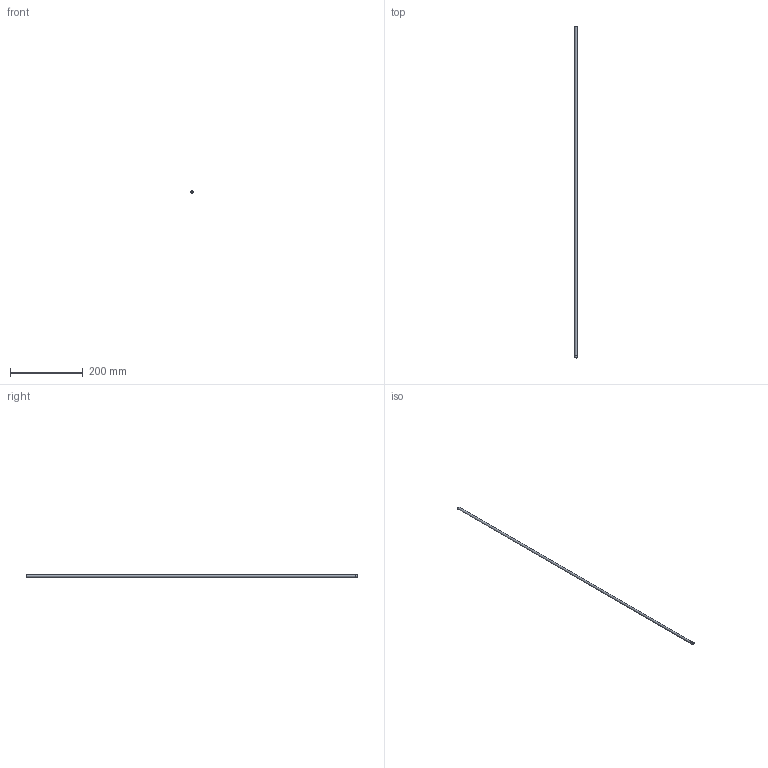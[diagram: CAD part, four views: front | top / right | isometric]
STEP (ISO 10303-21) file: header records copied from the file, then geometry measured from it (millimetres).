
FILE_DESCRIPTION(/* description */ (''),/* implementation_level */ '2;1');
FILE_NAME(/* name */ 'C:/Users/drich/Desktop/HF250T-36 v1.step',/* time_stamp */ '2019-12-30T13:34:15-06:00',/* author */ (''),/* organization */ (''),/* preprocessor_version */ 'ST-DEVELOPER v18',/* originating_system */ 'Autodesk Translation Framework v8.12.0.6',/* authorisation */ '');
FILE_SCHEMA (('AUTOMOTIVE_DESIGN { 1 0 10303 214 3 1 1 }'));
Length unit declared in the file: inch
Products named in the file (1): HF250T-36
Bounding box: 7.98 x 914.4 x 7.98 mm (x, y, z)
Volume: 4569.7 mm3; surface area: 35094.2 mm2
Topology: 1 solids, 1 shells, 12 faces, 30 edges, 22 vertices
Faces by surface type: plane 4, cylinder 4, torus 3, cone 1
Full cylindrical faces by diameter (mm): 5.842 x1, 6.35 x1, 7.818 x1, 7.976 x1
Entity records: 426 total; most frequent: DIRECTION 81, CARTESIAN_POINT 65, ORIENTED_EDGE 60, AXIS2_PLACEMENT_3D 38, EDGE_CURVE 30, CIRCLE 25, VERTEX_POINT 22, EDGE_LOOP 16
